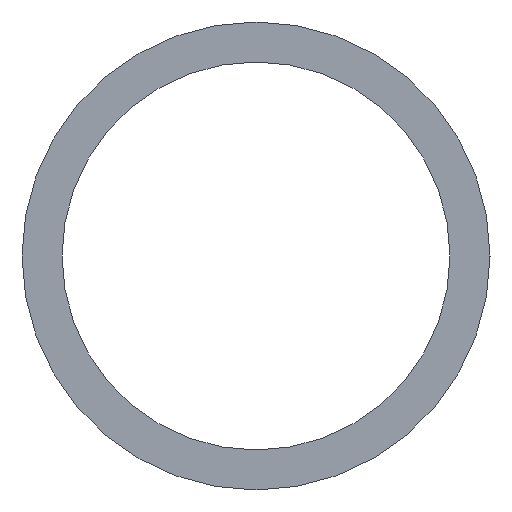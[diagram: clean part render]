
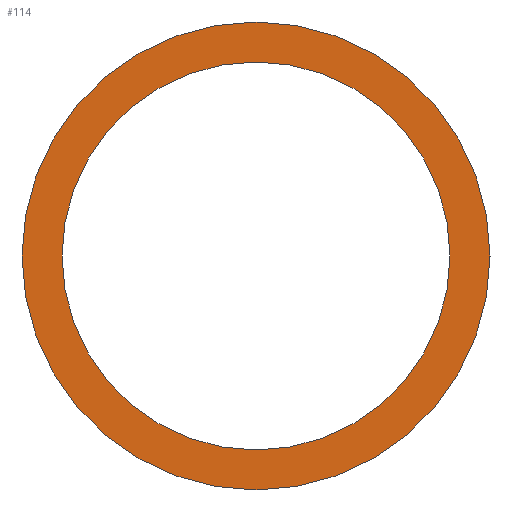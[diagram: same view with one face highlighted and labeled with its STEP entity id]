
A CAD part, left-side view. The second image highlights one B-rep face of the part: STEP entity #114.
In plain terms, the highlighted planar face has unit normal (-1, 0, 0).
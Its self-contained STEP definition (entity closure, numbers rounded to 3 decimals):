
#2 = EDGE_CURVE ( 'NONE', #97, #88, #105, .T. ) ;
#7 = VERTEX_POINT ( 'NONE', #41 ) ;
#8 = DIRECTION ( 'NONE',  ( 0., 1., 0. ) ) ;
#11 = DIRECTION ( 'NONE',  ( 1., 0., 0. ) ) ;
#15 = AXIS2_PLACEMENT_3D ( 'NONE', #108, #178, #106 ) ;
#24 = ORIENTED_EDGE ( 'NONE', *, *, #51, .F. ) ;
#27 = AXIS2_PLACEMENT_3D ( 'NONE', #77, #11, #214 ) ;
#28 = FACE_OUTER_BOUND ( 'NONE', #171, .T. ) ;
#37 = CIRCLE ( 'NONE', #27, 13.45 ) ;
#39 = EDGE_CURVE ( 'NONE', #88, #97, #160, .T. ) ;
#41 = CARTESIAN_POINT ( 'NONE',  ( 3045.5, 3761.55, 5775.85 ) ) ;
#44 = DIRECTION ( 'NONE',  ( 1., 0., 0. ) ) ;
#51 = EDGE_CURVE ( 'NONE', #58, #7, #37, .T. ) ;
#58 = VERTEX_POINT ( 'NONE', #107 ) ;
#62 = DIRECTION ( 'NONE',  ( 0., 0., 1. ) ) ;
#72 = DIRECTION ( 'NONE',  ( 1., 0., 0. ) ) ;
#73 = ORIENTED_EDGE ( 'NONE', *, *, #2, .T. ) ;
#74 = AXIS2_PLACEMENT_3D ( 'NONE', #75, #137, #212 ) ;
#75 = CARTESIAN_POINT ( 'NONE',  ( 3045.5, 3775., 5775.85 ) ) ;
#76 = CARTESIAN_POINT ( 'NONE',  ( 3045.5, 3763.85, 5775.85 ) ) ;
#77 = CARTESIAN_POINT ( 'NONE',  ( 3045.5, 3775., 5775.85 ) ) ;
#88 = VERTEX_POINT ( 'NONE', #179 ) ;
#97 = VERTEX_POINT ( 'NONE', #76 ) ;
#105 = CIRCLE ( 'NONE', #192, 11.15 ) ;
#106 = DIRECTION ( 'NONE',  ( 0., 1., 0. ) ) ;
#107 = CARTESIAN_POINT ( 'NONE',  ( 3045.5, 3788.45, 5775.85 ) ) ;
#108 = CARTESIAN_POINT ( 'NONE',  ( 3045.5, 3775., 5775.85 ) ) ;
#114 = ADVANCED_FACE ( 'NONE', ( #138, #28 ), #159, .F. ) ;
#117 = ORIENTED_EDGE ( 'NONE', *, *, #39, .T. ) ;
#119 = ORIENTED_EDGE ( 'NONE', *, *, #144, .F. ) ;
#137 = DIRECTION ( 'NONE',  ( 1., 0., 0. ) ) ;
#138 = FACE_BOUND ( 'NONE', #206, .T. ) ;
#140 = CARTESIAN_POINT ( 'NONE',  ( 3045.5, 3775., 6275.85 ) ) ;
#144 = EDGE_CURVE ( 'NONE', #7, #58, #156, .T. ) ;
#149 = CARTESIAN_POINT ( 'NONE',  ( 3045.5, 3775., 5775.85 ) ) ;
#156 = CIRCLE ( 'NONE', #74, 13.45 ) ;
#159 = PLANE ( 'NONE',  #198 ) ;
#160 = CIRCLE ( 'NONE', #15, 11.15 ) ;
#171 = EDGE_LOOP ( 'NONE', ( #24, #119 ) ) ;
#178 = DIRECTION ( 'NONE',  ( 1., 0., 0. ) ) ;
#179 = CARTESIAN_POINT ( 'NONE',  ( 3045.5, 3786.15, 5775.85 ) ) ;
#192 = AXIS2_PLACEMENT_3D ( 'NONE', #149, #72, #8 ) ;
#198 = AXIS2_PLACEMENT_3D ( 'NONE', #140, #44, #62 ) ;
#206 = EDGE_LOOP ( 'NONE', ( #117, #73 ) ) ;
#212 = DIRECTION ( 'NONE',  ( 0., 1., 0. ) ) ;
#214 = DIRECTION ( 'NONE',  ( 0., 1., 0. ) ) ;
